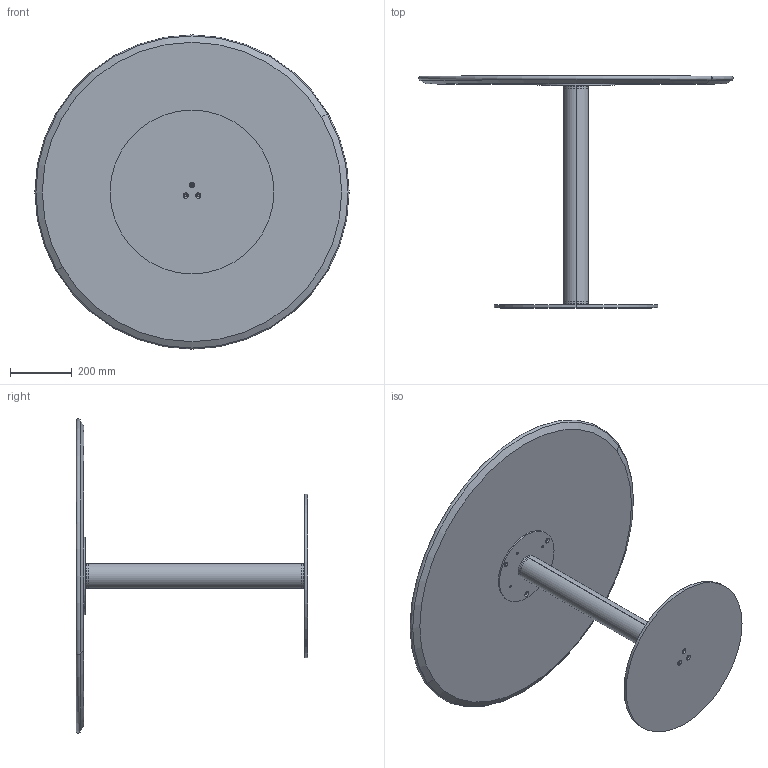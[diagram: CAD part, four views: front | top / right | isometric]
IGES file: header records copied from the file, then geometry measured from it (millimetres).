
Start section: SolidWorks IGES file using analytic representation for surfaces
Global section: file name: Y:\eforma\TECNICO\SOLIDWORKS\E-FORMA\5-TAVOLINI BISTRO\CILINDRO BISTRÒ\02 parts\CB30B.IGS; native system: SolidWorks 2022; preprocessor: SolidWorks 2022; author: eforma.tech; date: 240808.103245; units: millimetre
Bounding box: 1016.79 x 750 x 1016.79 mm (x, y, z)
Volume: 22559907.3 mm3; surface area: 4198952.8 mm2
Topology: 7 solids, 7 shells, 107 faces, 248 edges, 156 vertices
Faces by surface type: revolution 92, plane 15
